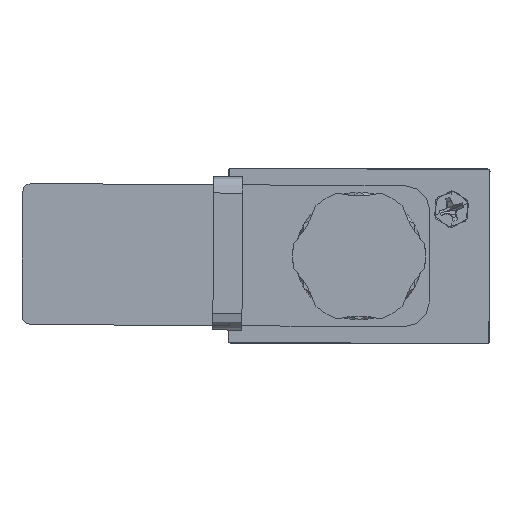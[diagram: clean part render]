
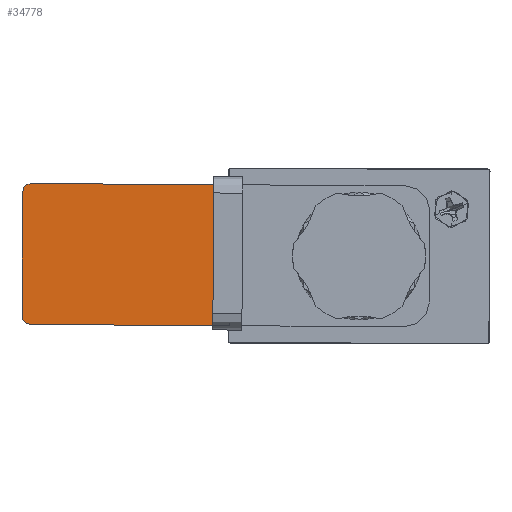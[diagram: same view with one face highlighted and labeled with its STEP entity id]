
A CAD part, left-side view. The second image highlights one B-rep face of the part: STEP entity #34778.
In plain terms, the highlighted planar face has unit normal (-1, 0, 0) as drawn and (1, 0, 0) by its records, which use the part's own axes.
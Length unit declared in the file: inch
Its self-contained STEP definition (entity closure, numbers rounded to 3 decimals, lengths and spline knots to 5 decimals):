
#118 = VECTOR ( 'NONE', #4814, 39.37008 ) ;
#412 = DIRECTION ( 'NONE',  ( 0., 0., 1. ) ) ;
#2384 = DIRECTION ( 'NONE',  ( -1., 0., 0. ) ) ;
#2898 = ORIENTED_EDGE ( 'NONE', *, *, #51976, .T. ) ;
#4814 = DIRECTION ( 'NONE',  ( 0., 0., -1. ) ) ;
#5045 = LINE ( 'NONE', #41569, #46182 ) ;
#11006 = DIRECTION ( 'NONE',  ( 1., 0., 0. ) ) ;
#12422 = VECTOR ( 'NONE', #20222, 39.37008 ) ;
#12491 = CARTESIAN_POINT ( 'NONE',  ( 0., 1.25, -0.4245 ) ) ;
#14994 = VERTEX_POINT ( 'NONE', #34086 ) ;
#19709 = AXIS2_PLACEMENT_3D ( 'NONE', #46927, #2384, #41532 ) ;
#20222 = DIRECTION ( 'NONE',  ( 0., 0., 1. ) ) ;
#20393 = FACE_OUTER_BOUND ( 'NONE', #57571, .T. ) ;
#22446 = ORIENTED_EDGE ( 'NONE', *, *, #38169, .T. ) ;
#25332 = ORIENTED_EDGE ( 'NONE', *, *, #62709, .T. ) ;
#26382 = EDGE_CURVE ( 'NONE', #47247, #45999, #64948, .T. ) ;
#28278 = ORIENTED_EDGE ( 'NONE', *, *, #26382, .T. ) ;
#30352 = DIRECTION ( 'NONE',  ( 0., 1., 0. ) ) ;
#33050 = CIRCLE ( 'NONE', #46664, 0.05 ) ;
#33948 = DIRECTION ( 'NONE',  ( 1., 0., 0. ) ) ;
#34086 = CARTESIAN_POINT ( 'NONE',  ( 0., 0., 0.3745 ) ) ;
#34321 = AXIS2_PLACEMENT_3D ( 'NONE', #44556, #11006, #50202 ) ;
#34778 = ADVANCED_FACE ( 'NONE', ( #20393 ), #69408, .F. ) ;
#38169 = EDGE_CURVE ( 'NONE', #61501, #48462, #56686, .T. ) ;
#40460 = LINE ( 'NONE', #59626, #12422 ) ;
#41259 = LINE ( 'NONE', #49623, #118 ) ;
#41532 = DIRECTION ( 'NONE',  ( 0., 0., 1. ) ) ;
#41569 = CARTESIAN_POINT ( 'NONE',  ( 0., 0.05, -0.4245 ) ) ;
#41607 = CARTESIAN_POINT ( 'NONE',  ( 0., 0.05, 0.4245 ) ) ;
#44556 = CARTESIAN_POINT ( 'NONE',  ( 0., 0.05, -0.3745 ) ) ;
#45999 = VERTEX_POINT ( 'NONE', #60959 ) ;
#46182 = VECTOR ( 'NONE', #30352, 39.37008 ) ;
#46664 = AXIS2_PLACEMENT_3D ( 'NONE', #67457, #33948, #412 ) ;
#46927 = CARTESIAN_POINT ( 'NONE',  ( 0., 0.05, -0.3745 ) ) ;
#47247 = VERTEX_POINT ( 'NONE', #63794 ) ;
#47395 = EDGE_CURVE ( 'NONE', #58317, #61501, #40460, .T. ) ;
#48462 = VERTEX_POINT ( 'NONE', #41607 ) ;
#49623 = CARTESIAN_POINT ( 'NONE',  ( 0., 0., 0.3745 ) ) ;
#50202 = DIRECTION ( 'NONE',  ( 0., 0., 1. ) ) ;
#51976 = EDGE_CURVE ( 'NONE', #48462, #14994, #33050, .T. ) ;
#52653 = ORIENTED_EDGE ( 'NONE', *, *, #59106, .T. ) ;
#52771 = CARTESIAN_POINT ( 'NONE',  ( 0., 1.25, 0.4245 ) ) ;
#56686 = LINE ( 'NONE', #52771, #69786 ) ;
#57571 = EDGE_LOOP ( 'NONE', ( #28278, #25332, #68926, #22446, #2898, #52653 ) ) ;
#57834 = CARTESIAN_POINT ( 'NONE',  ( 0., 1.25, 0.4245 ) ) ;
#58317 = VERTEX_POINT ( 'NONE', #12491 ) ;
#58388 = DIRECTION ( 'NONE',  ( 0., -1., 0. ) ) ;
#59106 = EDGE_CURVE ( 'NONE', #14994, #47247, #41259, .T. ) ;
#59626 = CARTESIAN_POINT ( 'NONE',  ( 0., 1.25, -0.4245 ) ) ;
#60959 = CARTESIAN_POINT ( 'NONE',  ( 0., 0.05, -0.4245 ) ) ;
#61501 = VERTEX_POINT ( 'NONE', #57834 ) ;
#62709 = EDGE_CURVE ( 'NONE', #45999, #58317, #5045, .T. ) ;
#63794 = CARTESIAN_POINT ( 'NONE',  ( 0., 0., -0.3745 ) ) ;
#64948 = CIRCLE ( 'NONE', #34321, 0.05 ) ;
#67457 = CARTESIAN_POINT ( 'NONE',  ( 0., 0.05, 0.3745 ) ) ;
#68926 = ORIENTED_EDGE ( 'NONE', *, *, #47395, .T. ) ;
#69408 = PLANE ( 'NONE',  #19709 ) ;
#69786 = VECTOR ( 'NONE', #58388, 39.37008 ) ;
